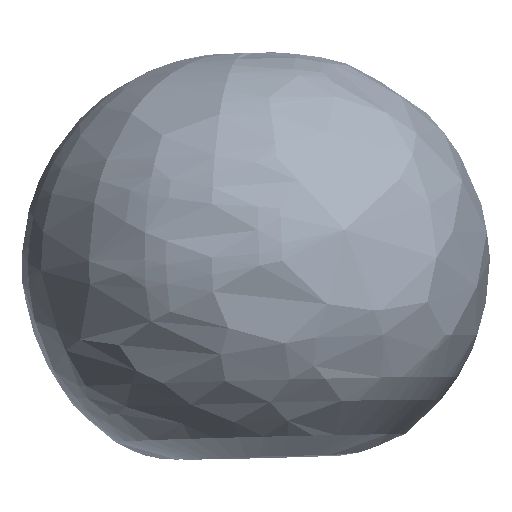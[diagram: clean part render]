
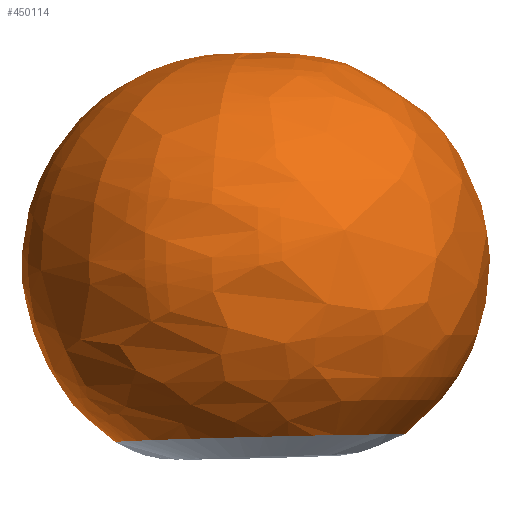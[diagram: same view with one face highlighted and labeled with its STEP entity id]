
A CAD part, top view. The second image highlights one B-rep face of the part: STEP entity #450114.
In plain terms, the highlighted free-form (B-spline) face has degree [3, 3] with [7, 4] control points.
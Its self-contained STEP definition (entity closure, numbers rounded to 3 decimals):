
#449600=CARTESIAN_POINT('',(167.417,500.,-29.52));
#449601=DIRECTION('',(-0.174,0.,-0.985));
#449602=DIRECTION('',(-0.108,0.994,0.019));
#449603=AXIS2_PLACEMENT_3D('',#449600,#449601,#449602);
#449655=CARTESIAN_POINT('',(167.417,500.,29.52));
#449656=DIRECTION('',(-0.174,0.,0.985));
#449657=DIRECTION('',(0.565,-0.819,0.1));
#449658=AXIS2_PLACEMENT_3D('',#449655,#449656,#449657);
#449760=CARTESIAN_POINT('',(0.,-772.143,
0.));
#449761=DIRECTION('',(0.,-1.,0.));
#449762=DIRECTION('',(0.985,0.,0.174));
#449763=AXIS2_PLACEMENT_3D('',#449760,#449761,#449762);
#449765=CARTESIAN_POINT('',(0.,-772.143,
0.));
#449766=DIRECTION('',(0.,-1.,0.));
#449767=DIRECTION('',(-0.985,0.,0.174));
#449768=AXIS2_PLACEMENT_3D('',#449765,#449766,#449767);
#449788=CARTESIAN_POINT('',(0.,2043.667,
0.));
#449789=VERTEX_POINT('',#449788);
#449790=CARTESIAN_POINT('',(1044.649,-772.143,
-184.2));
#449791=VERTEX_POINT('',#449790);
#449810=CARTESIAN_POINT('',(1044.649,-772.143,
184.2));
#449811=VERTEX_POINT('',#449810);
#449823=CARTESIAN_POINT('',(-1044.628,-772.143,
184.318));
#449824=VERTEX_POINT('',#449823);
#450079=CARTESIAN_POINT('',(0.,2043.667,0.));
#450080=CARTESIAN_POINT('',(2080.389,2273.133,
116.312));
#450081=CARTESIAN_POINT('',(2766.26,292.65,
154.658));
#450082=CARTESIAN_POINT('',(990.826,-817.388,
55.396));
#450083=CARTESIAN_POINT('',(0.,2043.667,
0.));
#450084=CARTESIAN_POINT('',(1860.155,2273.133,
4055.491));
#450085=CARTESIAN_POINT('',(2473.418,292.65,
5392.522));
#450086=CARTESIAN_POINT('',(885.935,-817.388,
1931.508));
#450087=CARTESIAN_POINT('',(0.,2043.667,
0.));
#450088=CARTESIAN_POINT('',(-2083.638,2273.133,
3945.331));
#450089=CARTESIAN_POINT('',(-2770.58,292.65,
5246.044));
#450090=CARTESIAN_POINT('',(-992.374,-817.388,
1879.042));
#450091=CARTESIAN_POINT('',(0.,2043.667,0.));
#450092=CARTESIAN_POINT('',(-2083.638,2273.133,
0.));
#450093=CARTESIAN_POINT('',(-2770.58,292.65,
0.));
#450094=CARTESIAN_POINT('',(-992.374,-817.388,
0.));
#450095=CARTESIAN_POINT('',(0.,2043.667,
0.));
#450096=CARTESIAN_POINT('',(-2083.638,2273.133,
-3945.331));
#450097=CARTESIAN_POINT('',(-2770.58,292.65,
-5246.044));
#450098=CARTESIAN_POINT('',(-992.374,-817.388,
-1879.042));
#450099=CARTESIAN_POINT('',(0.,2043.667,
0.));
#450100=CARTESIAN_POINT('',(1860.155,2273.133,
-4055.491));
#450101=CARTESIAN_POINT('',(2473.418,292.65,
-5392.522));
#450102=CARTESIAN_POINT('',(885.935,-817.388,
-1931.508));
#450103=CARTESIAN_POINT('',(0.,2043.667,0.));
#450104=CARTESIAN_POINT('',(2080.389,2273.133,
-116.312));
#450105=CARTESIAN_POINT('',(2766.26,292.65,
-154.658));
#450106=CARTESIAN_POINT('',(990.826,-817.388,
-55.396));
#450107=(BOUNDED_SURFACE()B_SPLINE_SURFACE(3,3,((#450079,#450080,#450081,
#450082),(#450083,#450084,#450085,#450086),(#450087,#450088,#450089,#450090),(
#450091,#450092,#450093,#450094),(#450095,#450096,#450097,#450098),(#450099,
#450100,#450101,#450102),(#450103,#450104,#450105,#450106)),.UNSPECIFIED.,.F.,
.F.,.F.)B_SPLINE_SURFACE_WITH_KNOTS((4,3,4),(4,4),(0.,1.,2.),(0.,1.),
.UNSPECIFIED.)GEOMETRIC_REPRESENTATION_ITEM()RATIONAL_B_SPLINE_SURFACE(((
3.184,1.533,1.533,3.184),(
1.12,0.54,0.54,1.12),(
1.12,0.54,0.54,1.12),(
3.184,1.533,1.533,3.184),(
1.12,0.54,0.54,1.12),(
1.12,0.54,0.54,1.12),(
3.184,1.533,1.533,3.184)))REPRESENTATION_ITEM('')SURFACE());
#450108=ORIENTED_EDGE('',*,*,#449838,.F.);
#450109=ORIENTED_EDGE('',*,*,#449894,.F.);
#450110=ORIENTED_EDGE('',*,*,#450071,.T.);
#450111=ORIENTED_EDGE('',*,*,#450069,.T.);
#450112=EDGE_LOOP('',(#450108,#450109,#450110,#450111));
#450113=FACE_OUTER_BOUND('',#450112,.F.);
#450114=ADVANCED_FACE('',(#450113),#450107,.T.);
#449604=CIRCLE('',#449603,1553.);
#449659=CIRCLE('',#449658,1553.);
#449764=CIRCLE('',#449763,1060.764);
#449769=CIRCLE('',#449768,1060.764);
#449838=EDGE_CURVE('',#449789,#449791,#449604,.T.);
#449894=EDGE_CURVE('',#449811,#449789,#449659,.T.);
#450069=EDGE_CURVE('',#449824,#449791,#449769,.T.);
#450071=EDGE_CURVE('',#449811,#449824,#449764,.T.);
